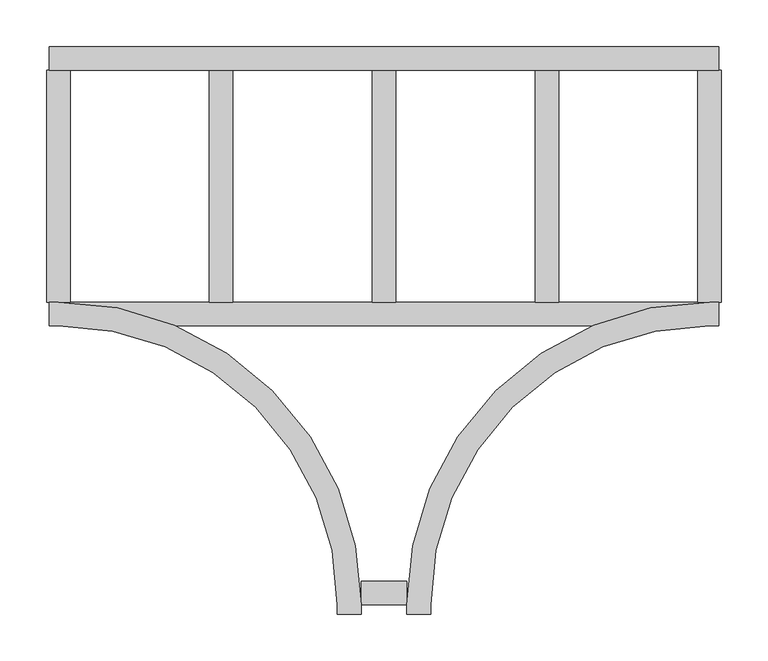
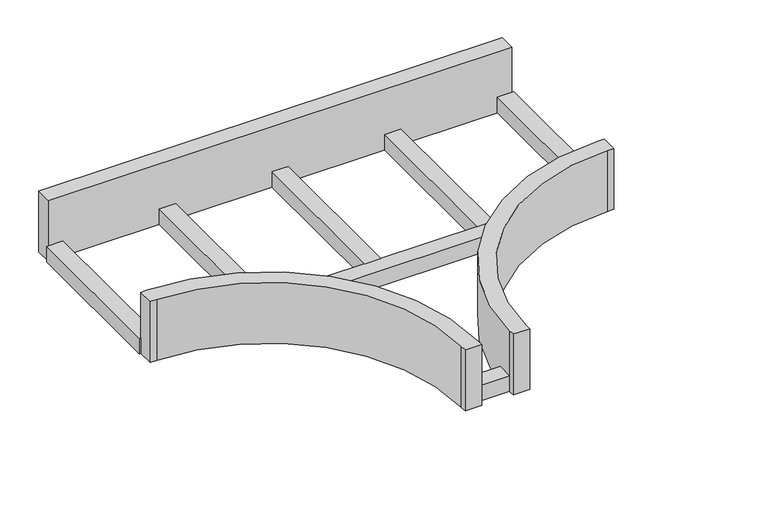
"""IFC4 building model written with IfcOpenShell, lengths in millimetres: cable carrier fitting geometry, ADSK_Ответвление_Лестничный лоток : Радиус 300 мм."""

from ifc_helpers import new_model, si_unit, frame, origin, place, context, project, spatial, polyline, circle_curve, outline, extrude, faceted_brep, source, transform, mapped, element, save
from ifc_brep_helpers import plane_surface, cylinder_surface, revolved_surface, advanced_brep


def cable_carrier_fitting_be630497(model_context):
    return source(origin(), model_context, "Body", "SolidModel", [
        extrude(outline(polyline([(24.6, -424.6), (24.6, -450.0), (-24.6, -450.0), (-24.6, -424.6), (24.6, -424.6)])), frame((0.0, 0.0, -50.0), z_axis=(0.0, 0.0, 1.0), x_axis=(1.0, 0.0, 0.0)), (0.0, 0.0, 1.0), 25.4),
        extrude(outline(polyline([(362.7, 124.6), (362.7, -124.6), (337.3, -124.6), (337.3, 124.6), (362.7, 124.6)])), frame((0.0, 0.0, -50.0), z_axis=(0.0, 0.0, 1.0), x_axis=(1.0, 0.0, 0.0)), (0.0, 0.0, 1.0), 25.4),
        extrude(outline(polyline([(187.7, 124.6), (187.7, -124.6), (162.3, -124.6), (162.3, 124.6), (187.7, 124.6)])), frame((0.0, 0.0, -50.0), z_axis=(0.0, 0.0, 1.0), x_axis=(1.0, 0.0, 0.0)), (0.0, 0.0, 1.0), 25.4),
        extrude(outline(polyline([(12.7, 124.6), (12.7, -124.6), (-12.7, -124.6), (-12.7, 124.6), (12.7, 124.6)])), frame((0.0, 0.0, -50.0), z_axis=(0.0, 0.0, 1.0), x_axis=(1.0, 0.0, 0.0)), (0.0, 0.0, 1.0), 25.4),
        extrude(outline(polyline([(-162.3, 124.6), (-162.3, -124.6), (-187.7, -124.6), (-187.7, 124.6), (-162.3, 124.6)])), frame((0.0, 0.0, -50.0), z_axis=(0.0, 0.0, 1.0), x_axis=(1.0, 0.0, 0.0)), (0.0, 0.0, 1.0), 25.4),
        extrude(outline(polyline([(-337.3, 124.6), (-337.3, -124.6), (-362.7, -124.6), (-362.7, 124.6), (-337.3, 124.6)])), frame((0.0, 0.0, -50.0), z_axis=(0.0, 0.0, 1.0), x_axis=(1.0, 0.0, 0.0)), (0.0, 0.0, 1.0), 25.4),
        advanced_brep(
        [(-50.0, -450.0, 50.0), (-50.0, -460.0, 50.0), (-24.6, -460.0, 50.0), (-24.6, -450.0, 50.0), (-350.0, -124.6, 50.0), (-360.0, -124.6, 50.0), (-360.0, -150.0, 50.0), (-350.0, -150.0, 50.0), (50.0, -450.0, 50.0), (350.0, -150.0, 50.0), (360.0, -150.0, 50.0), (360.0, -124.6, 50.0), (350.0, -124.6, 50.0), (24.6, -450.0, 50.0), (24.6, -460.0, 50.0), (50.0, -460.0, 50.0), (-50.0, -450.0, -50.0), (-350.0, -150.0, -50.0), (-360.0, -150.0, -50.0), (-360.0, -124.6, -50.0), (360.0, -124.6, -50.0), (360.0, -150.0, -50.0), (350.0, -150.0, -50.0), (50.0, -450.0, -50.0), (50.0, -460.0, -50.0), (24.6, -460.0, -50.0), (24.6, -450.0, -50.0), (223.9636561, -150.0, -50.0), (-223.9636561, -150.0, -50.0), (-24.6, -450.0, -50.0), (-24.6, -460.0, -50.0), (-50.0, -460.0, -50.0), (-223.9636561, -150.0, -24.6), (-350.0, -124.6, -24.6), (350.0, -124.6, -24.6), (-350.0, -150.0, -24.6), (350.0, -150.0, -24.6), (223.9636561, -150.0, -24.6)],
        [
            (0, 1),
            (1, 2),
            (2, 3),
            (3, 4, circle_curve(frame((-350.0, -450.0, 50.0), z_axis=(0.0, 0.0, 1.0), x_axis=(1.0, 0.0, 0.0)), 325.4)),
            (4, 5),
            (5, 6),
            (6, 7),
            (7, 0, circle_curve(frame((-350.0, -450.0, 50.0), z_axis=(0.0, 0.0, -1.0), x_axis=(1.0, 0.0, 0.0)), 300.0)),
            (8, 9, circle_curve(frame((350.0, -450.0, 50.0), z_axis=(0.0, 0.0, -1.0), x_axis=(1.0, 0.0, 0.0)), 300.0)),
            (9, 10),
            (10, 11),
            (11, 12),
            (12, 13, circle_curve(frame((350.0, -450.0, 50.0), z_axis=(0.0, 0.0, 1.0), x_axis=(1.0, 0.0, 0.0)), 325.4)),
            (13, 14),
            (14, 15),
            (15, 8),
            (16, 17, circle_curve(frame((-350.0, -450.0, -50.0), z_axis=(0.0, 0.0, 1.0), x_axis=(1.0, 0.0, 0.0)), 300.0)),
            (17, 18),
            (18, 19),
            (19, 20),
            (20, 21),
            (21, 22),
            (22, 23, circle_curve(frame((350.0, -450.0, -50.0), z_axis=(0.0, 0.0, 1.0), x_axis=(1.0, 0.0, 0.0)), 300.0)),
            (23, 24),
            (24, 25),
            (25, 26),
            (26, 27, circle_curve(frame((350.0, -450.0, -50.0), z_axis=(0.0, 0.0, -1.0), x_axis=(1.0, 0.0, 0.0)), 325.4)),
            (27, 28),
            (28, 29, circle_curve(frame((-350.0, -450.0, -50.0), z_axis=(0.0, 0.0, -1.0), x_axis=(1.0, 0.0, 0.0)), 325.4)),
            (29, 30),
            (30, 31),
            (31, 16),
            (0, 16),
            (31, 1),
            (30, 2),
            (29, 3),
            (28, 32),
            (32, 33, circle_curve(frame((-350.0, -450.0, -24.6), z_axis=(0.0, 0.0, 1.0), x_axis=(1.0, 0.0, 0.0)), 325.4)),
            (33, 4),
            (33, 34),
            (34, 12),
            (11, 20),
            (19, 5),
            (18, 6),
            (17, 35),
            (35, 7),
            (8, 23),
            (22, 36),
            (36, 9),
            (21, 10),
            (34, 37, circle_curve(frame((350.0, -450.0, -24.6), z_axis=(0.0, 0.0, 1.0), x_axis=(1.0, 0.0, 0.0)), 325.4)),
            (37, 27),
            (26, 13),
            (25, 14),
            (24, 15),
            (32, 37),
        ],
        [
            plane_surface(frame((-50.0, -450.0, 50.0), z_axis=(0.0, 0.0, 1.0), x_axis=(0.0, -1.0, 0.0))),
            plane_surface(frame((-50.0, -450.0, -50.0), z_axis=(0.0, 0.0, -1.0), x_axis=(0.0, 1.0, 0.0))),
            plane_surface(frame((-50.0, -450.0, 50.0), z_axis=(-1.0, 0.0, 0.0), x_axis=(0.0, 0.0, -1.0))),
            plane_surface(frame((-50.0, -460.0, 50.0), z_axis=(0.0, -1.0, 0.0), x_axis=(0.0, 0.0, -1.0))),
            plane_surface(frame((-24.6, -460.0, 50.0), z_axis=(1.0, 0.0, 0.0), x_axis=(0.0, 0.0, -1.0))),
            cylinder_surface(frame((-350.0, -450.0, -50.0), z_axis=(0.0, 0.0, 1.0), x_axis=(1.0, 0.0, 0.0)), 325.4),
            plane_surface(frame((-350.0, -124.6, 50.0), z_axis=(0.0, 1.0, 0.0), x_axis=(0.0, 0.0, -1.0))),
            plane_surface(frame((-360.0, -124.6, 50.0), z_axis=(-1.0, 0.0, 0.0), x_axis=(0.0, 0.0, -1.0))),
            plane_surface(frame((-360.0, -150.0, 50.0), z_axis=(0.0, -1.0, 0.0), x_axis=(0.0, 0.0, -1.0))),
            revolved_surface(polyline([(-50.0, -450.0, -50.0), (-50.0, -450.0, 50.0)]), (-350.0, -450.0, -50.0), (0.0, 0.0, -1.0)),
            revolved_surface(polyline([(650.0, -450.0, -50.0), (650.0, -450.0, 50.0)]), (350.0, -450.0, 0.0), (0.0, 0.0, -1.0)),
            plane_surface(frame((350.0, -150.0, 50.0), z_axis=(0.0, -1.0, 0.0), x_axis=(0.0, 0.0, -1.0))),
            plane_surface(frame((360.0, -150.0, 50.0), z_axis=(1.0, 0.0, 0.0), x_axis=(0.0, 0.0, -1.0))),
            cylinder_surface(frame((350.0, -450.0, 0.0), z_axis=(0.0, 0.0, 1.0), x_axis=(1.0, 0.0, 0.0)), 325.4),
            plane_surface(frame((24.6, -450.0, 50.0), z_axis=(-1.0, 0.0, 0.0), x_axis=(0.0, 0.0, -1.0))),
            plane_surface(frame((24.6, -460.0, 50.0), z_axis=(0.0, -1.0, 0.0), x_axis=(0.0, 0.0, -1.0))),
            plane_surface(frame((50.0, -460.0, 50.0), z_axis=(1.0, 0.0, 0.0), x_axis=(0.0, 0.0, -1.0))),
            plane_surface(frame((-350.0, -124.6, -24.6), z_axis=(0.0, 0.0, 1.0), x_axis=(-1.0, 0.0, 0.0))),
            plane_surface(frame((-350.0, -150.0, -24.6), z_axis=(0.0, -1.0, 0.0), x_axis=(0.0, 0.0, -1.0))),
        ],
        [
            (0, [[1, 2, 3, 4, 5, 6, 7, 8]]),
            (0, [[9, 10, 11, 12, 13, 14, 15, 16]]),
            (1, [[17, 18, 19, 20, 21, 22, 23, 24, 25, 26, 27, 28, 29, 30, 31, 32]]),
            (2, [[-1, 33, -32, 34]]),
            (3, [[-2, -34, -31, 35]]),
            (4, [[-3, -35, -30, 36]]),
            (5, [[-4, -36, -29, 37, 38, 39]]),
            (6, [[-5, -39, 40, 41, -12, 42, -20, 43]]),
            (7, [[-6, -43, -19, 44]]),
            (8, [[-7, -44, -18, 45, 46]]),
            (9, [[-8, -46, -45, -17, -33]]),
            (10, [[-9, 47, -23, 48, 49]]),
            (11, [[-10, -49, -48, -22, 50]]),
            (12, [[-11, -50, -21, -42]]),
            (13, [[-13, -41, 51, 52, -27, 53]]),
            (14, [[-14, -53, -26, 54]]),
            (15, [[-15, -54, -25, 55]]),
            (16, [[-16, -55, -24, -47]]),
            (17, [[-40, -38, 56, -51]]),
            (18, [[-28, -52, -56, -37]]),
        ],
    ),
        faceted_brep([(360.0, 150.0, 50.0), (-360.0, 150.0, 50.0), (-360.0, 124.6, 50.0), (360.0, 124.6, 50.0), (360.0, 150.0, -50.0), (360.0, 124.6, -50.0), (-360.0, 124.6, -50.0), (-360.0, 150.0, -50.0)], [[[0, 1, 2, 3]], [[4, 5, 6, 7]], [[1, 0, 4, 7]], [[2, 1, 7, 6]], [[3, 2, 6, 5]], [[0, 3, 5, 4]]]),
    ])


if __name__ == "__main__":
    model = new_model("IFC4")
    model_context = context("Model", 3, world=origin())
    ifc_project = project(units=[si_unit("LENGTHUNIT", "METRE", prefix="MILLI")], contexts=[model_context])
    site = spatial("IfcSite", under=ifc_project)
    building = spatial("IfcBuilding", under=site)
    placement = place(None, origin())
    cable_carrier_fitting_shape = cable_carrier_fitting_be630497(model_context)
    element("IfcCableCarrierFitting", 1, ObjectType="ADSK_Ответвление_Лестничный лоток : Радиус 300 мм", at=placement, inside=building, context=model_context, shape_type="MappedRepresentation", body=[
        mapped(cable_carrier_fitting_shape, transform((0.0, 0.0, 0.0), x_axis=(1.0, 0.0, 0.0), y_axis=(0.0, 1.0, 0.0), z_axis=(0.0, 0.0, 1.0))),
    ])
    save(model, "model.ifc")
